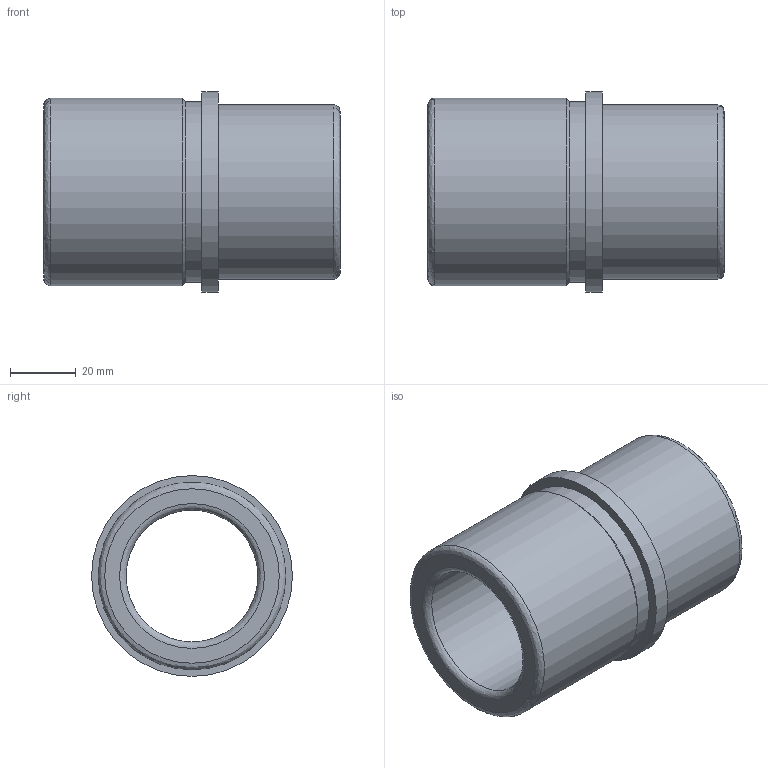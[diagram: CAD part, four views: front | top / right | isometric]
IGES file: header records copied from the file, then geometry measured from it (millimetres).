
Start section: Data from Parasolid IGES Translator 20.0.26, Copyright(c) 2006 Siemens P LM Software. All Rights Reserved.
Global section: file name: WZ - 4053 32 x 90 - 40.igs; native system: By Siemens PLM Incorporated; preprocessor: XPlus GENERIC/IGES 20.0.26; author: Noname; organization: Noname; date: 20201206.144344; units: millimetre
Bounding box: 90 x 61 x 61 mm (x, y, z)
Surface area: 30057.5 mm2 (no closed solid volume)
Topology: 0 solids, 0 shells, 14 faces, 52 edges, 36 vertices
Faces by surface type: revolution 10, extrusion 4
